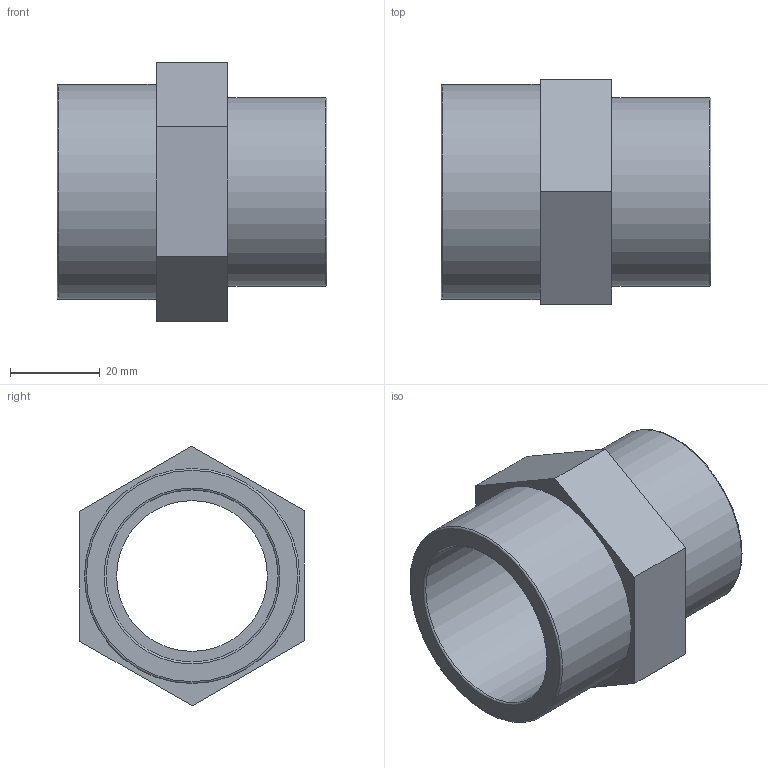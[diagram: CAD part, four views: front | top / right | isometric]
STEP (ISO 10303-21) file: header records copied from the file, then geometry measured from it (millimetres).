
FILE_DESCRIPTION(/* description */ ('PLASSON THR. REDUCING NIPPLE 1.1/2"-1.1/4" PVC'),/* implementation_level */ '2;1');
FILE_NAME(/* name */ 'C:\Dropbox\KIMPROJECTS-Inventor\99-16-3568-Processing\PVC Catalog 2017\051601\051601015013.ipt.stp',/* time_stamp */ '2017-12-07T16:00:59+02:00',/* author */ ('KIM'),/* organization */ (''),/* preprocessor_version */ 'ST-DEVELOPER v15.6',/* originating_system */ 'Autodesk Inventor 2015',/* authorisation */ '');
FILE_SCHEMA (('AUTOMOTIVE_DESIGN { 1 0 10303 214 3 1 1 }'));
Length unit declared in the file: millimetre
Products named in the file (1): 051601015013
Bounding box: 60 x 50.11 x 57.73 mm (x, y, z)
Volume: 42553.1 mm3; surface area: 18262.4 mm2
Topology: 1 solids, 1 shells, 19 faces, 38 edges, 24 vertices
Faces by surface type: plane 11, torus 4, cylinder 4
Full cylindrical faces by diameter (mm): 33.528 x1, 38.242 x1, 41.91 x1, 47.803 x1
Entity records: 480 total; most frequent: DIRECTION 82, CARTESIAN_POINT 74, ORIENTED_EDGE 60, EDGE_LOOP 32, AXIS2_PLACEMENT_3D 32, EDGE_CURVE 30, VERTEX_POINT 24, FACE_OUTER_BOUND 19
